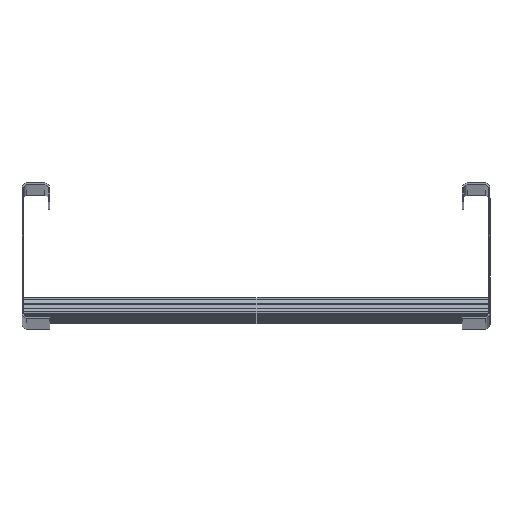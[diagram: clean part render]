
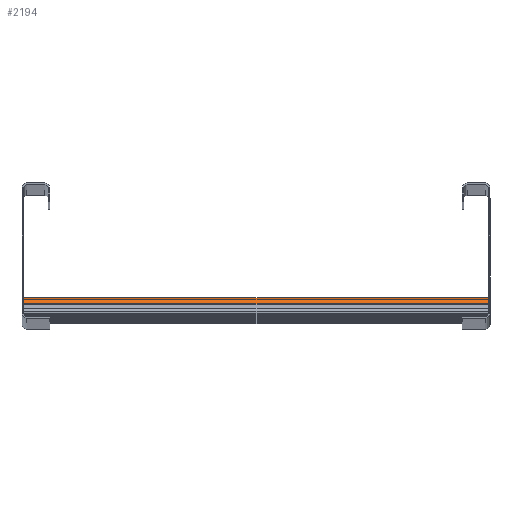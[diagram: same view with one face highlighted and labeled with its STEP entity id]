
A CAD part, top view. The second image highlights one B-rep face of the part: STEP entity #2194.
In plain terms, the highlighted cylindrical face has radius 8.1 mm (diameter 16.2 mm), a partial arc.
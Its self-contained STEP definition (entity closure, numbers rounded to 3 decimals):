
#795 = VECTOR ( 'NONE', #6819, 1000. ) ;
#1242 = EDGE_CURVE ( 'NONE', #3847, #3620, #11528, .T. ) ;
#1666 = EDGE_CURVE ( 'NONE', #9617, #7295, #2297, .T. ) ;
#1685 = FACE_OUTER_BOUND ( 'NONE', #12153, .T. ) ;
#1872 = DIRECTION ( 'NONE',  ( 0., 0., -1. ) ) ;
#2194 = ADVANCED_FACE ( 'NONE', ( #1685 ), #4858, .T. ) ;
#2297 = LINE ( 'NONE', #5097, #7253 ) ;
#2331 = CARTESIAN_POINT ( 'NONE',  ( -225., 15., 7.7 ) ) ;
#3373 = CARTESIAN_POINT ( 'NONE',  ( 225., 15., 7.7 ) ) ;
#3620 = VERTEX_POINT ( 'NONE', #2331 ) ;
#3686 = CARTESIAN_POINT ( 'NONE',  ( 225., 6.9, 7.7 ) ) ;
#3770 = EDGE_CURVE ( 'NONE', #3620, #7295, #10311, .T. ) ;
#3847 = VERTEX_POINT ( 'NONE', #3373 ) ;
#3973 = ORIENTED_EDGE ( 'NONE', *, *, #1242, .T. ) ;
#4320 = CARTESIAN_POINT ( 'NONE',  ( -225., 9.268, 15.446 ) ) ;
#4664 = CARTESIAN_POINT ( 'NONE',  ( -450.099, 6.9, 7.7 ) ) ;
#4858 = CYLINDRICAL_SURFACE ( 'NONE', #10896, 8.1 ) ;
#5097 = CARTESIAN_POINT ( 'NONE',  ( -225., 9.268, 15.446 ) ) ;
#5455 = CARTESIAN_POINT ( 'NONE',  ( 225., 9.268, 15.446 ) ) ;
#5724 = CIRCLE ( 'NONE', #9489, 8.1 ) ;
#6741 = DIRECTION ( 'NONE',  ( 0., 0., 1. ) ) ;
#6819 = DIRECTION ( 'NONE',  ( -1., 0., 0. ) ) ;
#6972 = AXIS2_PLACEMENT_3D ( 'NONE', #11721, #11857, #1872 ) ;
#7253 = VECTOR ( 'NONE', #8234, 1000. ) ;
#7295 = VERTEX_POINT ( 'NONE', #4320 ) ;
#8234 = DIRECTION ( 'NONE',  ( -1., 0., 0. ) ) ;
#9025 = ORIENTED_EDGE ( 'NONE', *, *, #3770, .T. ) ;
#9461 = ORIENTED_EDGE ( 'NONE', *, *, #1666, .F. ) ;
#9489 = AXIS2_PLACEMENT_3D ( 'NONE', #3686, #9611, #6741 ) ;
#9611 = DIRECTION ( 'NONE',  ( -1., 0., 0. ) ) ;
#9617 = VERTEX_POINT ( 'NONE', #5455 ) ;
#10311 = CIRCLE ( 'NONE', #6972, 8.1 ) ;
#10808 = DIRECTION ( 'NONE',  ( 0., 0., -1. ) ) ;
#10896 = AXIS2_PLACEMENT_3D ( 'NONE', #4664, #11660, #10808 ) ;
#11347 = EDGE_CURVE ( 'NONE', #9617, #3847, #5724, .T. ) ;
#11528 = LINE ( 'NONE', #11971, #795 ) ;
#11660 = DIRECTION ( 'NONE',  ( 1., 0., 0. ) ) ;
#11721 = CARTESIAN_POINT ( 'NONE',  ( -225., 6.9, 7.7 ) ) ;
#11857 = DIRECTION ( 'NONE',  ( 1., 0., 0. ) ) ;
#11971 = CARTESIAN_POINT ( 'NONE',  ( -225., 15., 7.7 ) ) ;
#12153 = EDGE_LOOP ( 'NONE', ( #3973, #9025, #9461, #12839 ) ) ;
#12839 = ORIENTED_EDGE ( 'NONE', *, *, #11347, .T. ) ;
